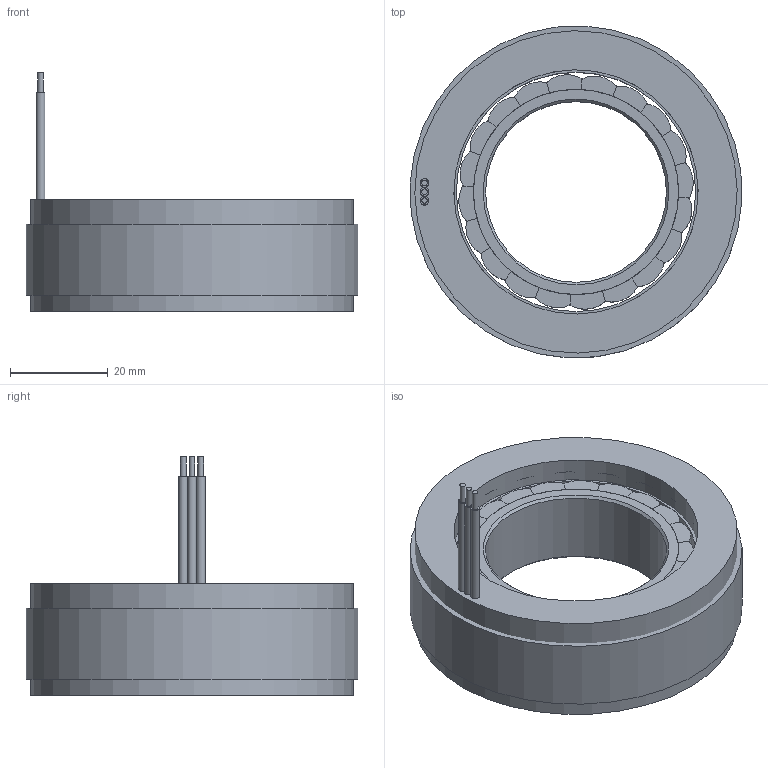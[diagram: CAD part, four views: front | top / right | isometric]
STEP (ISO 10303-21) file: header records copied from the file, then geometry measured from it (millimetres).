
FILE_DESCRIPTION (( 'STEP AP214' ), '1' );
FILE_NAME ('6813萇儂.STEP', '2024-01-17T05:51:12', ( '' ), ( '' ), 'SwSTEP 2.0', 'SolidWorks 2022', '' );
FILE_SCHEMA (( 'AUTOMOTIVE_DESIGN' ));
Length unit declared in the file: millimetre
Products named in the file (1): 6813萇儂
Bounding box: 67.9 x 67.9 x 48.8 mm (x, y, z)
Volume: 64872.4 mm3; surface area: 52540.5 mm2
Topology: 45 solids, 45 shells, 666 faces, 1711 edges, 1141 vertices
Faces by surface type: plane 370, cylinder 294, cone 2
Full cylindrical faces by diameter (mm): 1.15 x6, 1.8 x3, 37 x1, 42 x1, 49 x1, 50 x1, 64.4 x1, 66 x1, 68 x1
Entity records: 28100 total; most frequent: DIRECTION 3614, CARTESIAN_POINT 3495, ORIENTED_EDGE 3380, EDGE_CURVE 1690, AXIS2_PLACEMENT_3D 1257, VERTEX_POINT 1138, VECTOR 1100, LINE 1100
